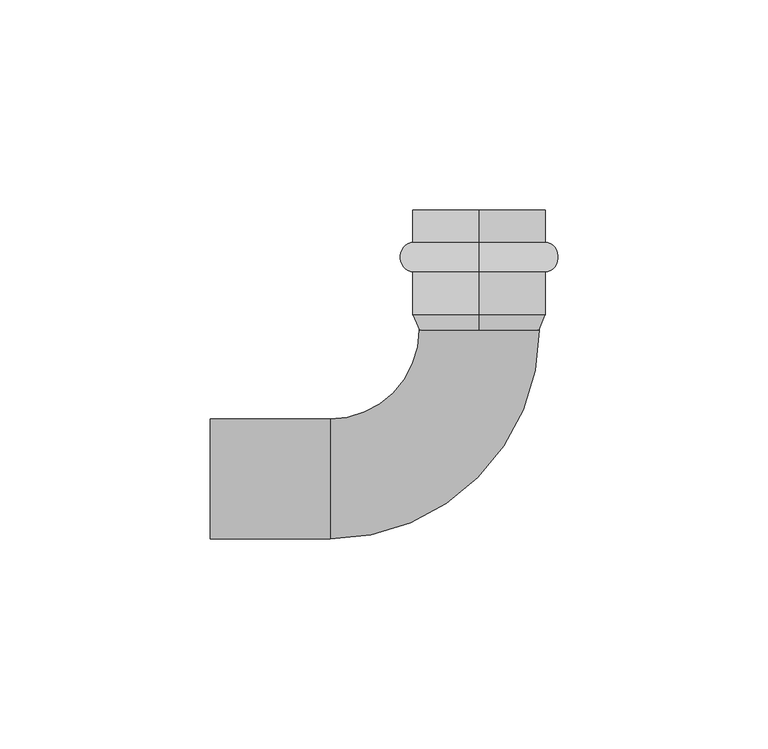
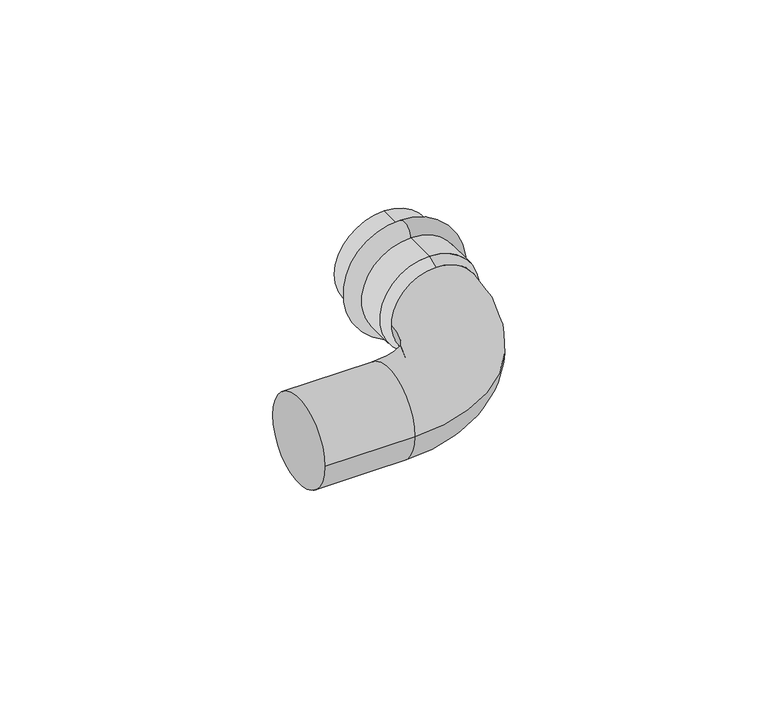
"""IFC4 building model written with IfcOpenShell, lengths in millimetres: pipe fitting geometry, РЕХАУ_Пресс Отвод-вставка : 28 x 90°."""

from ifc_helpers import new_model, si_unit, point, frame, origin, place, context, project, spatial, polyline, circle_curve, ellipse_curve, trimmed, source, transform, mapped, element, save
from ifc_brep_helpers import plane_surface, cylinder_surface, revolved_surface, advanced_brep


def pipe_fitting_c7b04b77(model_context):
    return source(origin(), model_context, "Body", "AdvancedBrep", [
        advanced_brep(
        [(64.0, 56.3, 15.75), (64.0, 56.3, -15.75), (64.0, 49.3, -15.75), (64.0, 49.3, 15.75)],
        [
            (0, 1, circle_curve(frame((64.0, 56.3, 0.0), z_axis=(0.0, 1.0, 0.0), x_axis=(0.0, 0.0, -1.0)), 15.75)),
            (1, 2),
            (2, 3, circle_curve(frame((64.0, 49.3, 0.0), z_axis=(0.0, -1.0, 0.0), x_axis=(0.0, 0.0, -1.0)), 15.75)),
            (3, 0),
            (1, 0, circle_curve(frame((64.0, 56.3, 0.0), z_axis=(0.0, 1.0, 0.0), x_axis=(0.0, 0.0, -1.0)), 15.75)),
            (3, 2, circle_curve(frame((64.0, 49.3, 0.0), z_axis=(0.0, -1.0, 0.0), x_axis=(0.0, 0.0, -1.0)), 15.75)),
            (2, 1, ellipse_curve(frame((64.0, 52.8, -15.75), z_axis=(1.0, 0.0, 0.0), x_axis=(0.0, 1.0, 0.0)), 3.5, 3.1)),
            (0, 3, ellipse_curve(frame((64.0, 52.8, 15.75), z_axis=(1.0, 0.0, 0.0), x_axis=(0.0, 1.0, 0.0)), 3.5, 3.1)),
        ],
        [
            revolved_surface(polyline([(64.0, 49.3, -15.75), (64.0, 56.3, -15.75)]), (64.0, 36.3, 0.0), (0.0, -1.0, 0.0)),
            revolved_surface(trimmed(ellipse_curve(frame((64.0, 52.8, -15.75), z_axis=(-1.0, 0.0, 0.0), x_axis=(0.0, 1.0, 0.0)), 3.5, 3.1), [point((64.0, 56.3, -15.75))], [point((64.0, 49.3, -15.75))], True, "CARTESIAN"), (64.0, 36.3, 0.0), (0.0, -1.0, 0.0)),
        ],
        [
            (0, [[1, 2, 3, 4]]),
            (0, [[5, -4, 6, -2]]),
            (1, [[-3, 7, -1, 8]]),
            (1, [[-6, -8, -5, -7]]),
        ],
    ),
        advanced_brep(
        [(64.0, 35.4662215, 14.25), (64.0, 35.4662215, -14.25), (64.0, 39.0, -15.75), (64.0, 39.0, 15.75), (64.0, 64.0, 14.25), (64.0, 64.0, -14.25), (64.0, 64.0, 15.75), (64.0, 64.0, -15.75)],
        [
            (0, 1, circle_curve(frame((64.0, 35.4662215, 0.0), z_axis=(0.0, 1.0, 0.0), x_axis=(0.0, 0.0, -1.0)), 14.25)),
            (1, 2),
            (2, 3, circle_curve(frame((64.0, 39.0, 0.0), z_axis=(0.0, -1.0, 0.0), x_axis=(0.0, 0.0, -1.0)), 15.75)),
            (3, 0),
            (1, 0, circle_curve(frame((64.0, 35.4662215, 0.0), z_axis=(0.0, 1.0, 0.0), x_axis=(0.0, 0.0, -1.0)), 14.25)),
            (3, 2, circle_curve(frame((64.0, 39.0, 0.0), z_axis=(0.0, -1.0, 0.0), x_axis=(0.0, 0.0, -1.0)), 15.75)),
            (4, 5, circle_curve(frame((64.0, 64.0, 0.0), z_axis=(0.0, 1.0, 0.0), x_axis=(0.0, 0.0, -1.0)), 14.25)),
            (5, 1),
            (0, 4),
            (5, 4, circle_curve(frame((64.0, 64.0, 0.0), z_axis=(0.0, 1.0, 0.0), x_axis=(0.0, 0.0, -1.0)), 14.25)),
            (6, 7, circle_curve(frame((64.0, 64.0, 0.0), z_axis=(0.0, 1.0, 0.0), x_axis=(0.0, 0.0, -1.0)), 15.75)),
            (7, 5),
            (4, 6),
            (7, 6, circle_curve(frame((64.0, 64.0, 0.0), z_axis=(0.0, 1.0, 0.0), x_axis=(0.0, 0.0, -1.0)), 15.75)),
            (2, 7),
            (6, 3),
        ],
        [
            revolved_surface(polyline([(64.0, 39.0, -15.75), (64.0, 35.4662215, -14.25)]), (64.0, 36.3, 0.0), (0.0, -1.0, 0.0)),
            revolved_surface(polyline([(64.0, 35.4662215, -14.25), (64.0, 64.0, -14.25)]), (64.0, 36.3, 0.0), (0.0, -1.0, 0.0)),
            plane_surface(frame((64.0, 64.0, 0.0), z_axis=(0.0, 1.0, 0.0), x_axis=(0.0, 0.0, -1.0))),
            cylinder_surface(frame((64.0, 36.3, 0.0), z_axis=(0.0, -1.0, 0.0), x_axis=(0.0, 0.0, -1.0)), 15.75),
        ],
        [
            (0, [[1, 2, 3, 4]]),
            (0, [[5, -4, 6, -2]]),
            (1, [[7, 8, -1, 9]]),
            (1, [[10, -9, -5, -8]]),
            (2, [[11, 12, -7, 13]]),
            (2, [[14, -13, -10, -12]]),
            (3, [[-3, 15, -11, 16]]),
            (3, [[-6, -16, -14, -15]]),
        ],
    ),
        advanced_brep(
        [(0.0, -14.25, 0.0), (0.0, 14.25, 0.0), (28.5337785, -14.25, 0.0), (28.5337785, 14.25, 0.0), (49.75, 35.4662215, 0.0), (78.25, 35.4662215, 0.0), (78.25, 39.0, 0.0), (49.75, 39.0, 0.0)],
        [
            (0, 1, circle_curve(frame((0.0, 0.0, 0.0), z_axis=(-1.0, 0.0, 0.0), x_axis=(0.0, 1.0, 0.0)), 14.25)),
            (1, 0, circle_curve(frame((0.0, 0.0, 0.0), z_axis=(-1.0, 0.0, 0.0), x_axis=(0.0, 1.0, 0.0)), 14.25)),
            (0, 2),
            (2, 3, circle_curve(frame((28.5337785, 0.0, 0.0), z_axis=(-1.0, 0.0, 0.0), x_axis=(0.0, 1.0, 0.0)), 14.25)),
            (3, 1),
            (3, 2, circle_curve(frame((28.5337785, 0.0, 0.0), z_axis=(-1.0, 0.0, 0.0), x_axis=(0.0, 1.0, 0.0)), 14.25)),
            (4, 3, circle_curve(frame((28.5337785, 35.4662215, 0.0), z_axis=(0.0, 0.0, -1.0), x_axis=(0.0, -1.0, 0.0)), 21.2162215)),
            (2, 5, circle_curve(frame((28.5337785, 35.4662215, 0.0), z_axis=(0.0, 0.0, 1.0), x_axis=(0.0, -1.0, 0.0)), 49.7162215)),
            (5, 4, circle_curve(frame((64.0, 35.4662215, 0.0), z_axis=(0.0, -1.0, 0.0), x_axis=(-1.0, 0.0, 0.0)), 14.25)),
            (4, 5, circle_curve(frame((64.0, 35.4662215, 0.0), z_axis=(0.0, -1.0, 0.0), x_axis=(-1.0, 0.0, 0.0)), 14.25)),
            (6, 7, circle_curve(frame((64.0, 39.0, 0.0), z_axis=(0.0, 1.0, 0.0), x_axis=(-1.0, 0.0, 0.0)), 14.25)),
            (7, 6, circle_curve(frame((64.0, 39.0, 0.0), z_axis=(0.0, 1.0, 0.0), x_axis=(-1.0, 0.0, 0.0)), 14.25)),
            (5, 6),
            (7, 4),
        ],
        [
            plane_surface(frame((0.0, 0.0, 0.0), z_axis=(-1.0, 0.0, 0.0), x_axis=(0.0, 0.0, 1.0))),
            cylinder_surface(frame((0.0, 0.0, 0.0), z_axis=(-1.0, 0.0, 0.0), x_axis=(0.0, 1.0, 0.0)), 14.25),
            revolved_surface(trimmed(ellipse_curve(frame((28.5337785, 0.0, 0.0), z_axis=(-1.0, 0.0, 0.0), x_axis=(0.0, 1.0, 0.0)), 14.25, 14.25), [point((28.5337785, -14.25, 0.0))], [point((28.5337785, 14.25, 0.0))], True, "CARTESIAN"), (28.5337785, 35.4662215, 0.0), (0.0, 0.0, 1.0)),
            revolved_surface(trimmed(ellipse_curve(frame((28.5337785, 0.0, 0.0), z_axis=(-1.0, 0.0, 0.0), x_axis=(0.0, 1.0, 0.0)), 14.25, 14.25), [point((28.5337785, 14.25, 0.0))], [point((28.5337785, -14.25, 0.0))], True, "CARTESIAN"), (28.5337785, 35.4662215, 0.0), (0.0, 0.0, 1.0)),
            plane_surface(frame((64.0, 39.0, 0.0), z_axis=(0.0, 1.0, 0.0), x_axis=(0.0, 0.0, 1.0))),
            cylinder_surface(frame((64.0, 35.4662215, 0.0), z_axis=(0.0, -1.0, 0.0), x_axis=(-1.0, 0.0, 0.0)), 14.25),
        ],
        [
            (0, [[1, 2]]),
            (1, [[-1, 3, 4, 5]]),
            (1, [[-2, -5, 6, -3]]),
            (2, [[7, -4, 8, 9]]),
            (3, [[-8, -6, -7, 10]]),
            (4, [[11, 12]]),
            (5, [[-9, 13, -12, 14]]),
            (5, [[-10, -14, -11, -13]]),
        ],
    ),
    ])


if __name__ == "__main__":
    model = new_model("IFC4")
    model_context = context("Model", 3, world=origin())
    ifc_project = project(units=[si_unit("LENGTHUNIT", "METRE", prefix="MILLI")], contexts=[model_context])
    site = spatial("IfcSite", under=ifc_project)
    building = spatial("IfcBuilding", under=site)
    placement = place(None, origin())
    pipe_fitting_shape = pipe_fitting_c7b04b77(model_context)
    element("IfcPipeFitting", 1, ObjectType="РЕХАУ_Пресс Отвод-вставка : 28 x 90°", at=placement, inside=building, context=model_context, shape_type="MappedRepresentation", body=[
        mapped(pipe_fitting_shape, transform((0.0, 0.0, 0.0), x_axis=(1.0, 0.0, 0.0), y_axis=(0.0, 1.0, 0.0), z_axis=(0.0, 0.0, 1.0))),
    ])
    save(model, "model.ifc")
